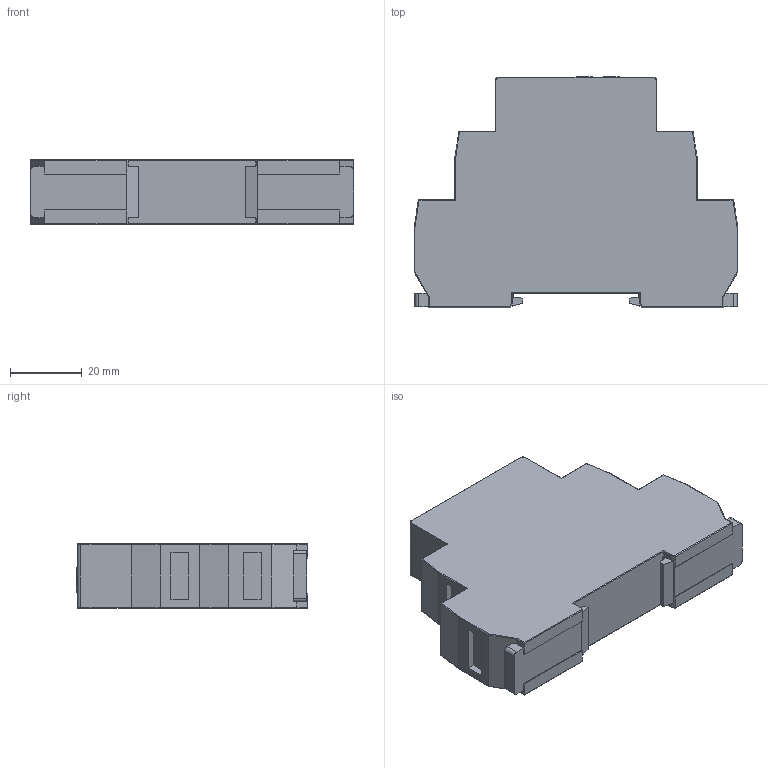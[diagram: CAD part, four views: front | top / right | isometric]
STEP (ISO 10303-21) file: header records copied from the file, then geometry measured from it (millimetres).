
FILE_DESCRIPTION (( 'STEP AP214' ), '1' );
FILE_NAME ('DKC_DRM-TA-2.STEP', '2024-09-02T06:14:50', ( 'ﾏ珞褄' ), ( '' ), 'SwSTEP 2.0', 'SolidWorks 2022', '' );
FILE_SCHEMA (( 'AUTOMOTIVE_DESIGN' ));
Length unit declared in the file: millimetre
Products named in the file (1): DKC_DRM-TA-2
Bounding box: 90 x 64.27 x 17.8 mm (x, y, z)
Volume: 78859.1 mm3; surface area: 15494.9 mm2
Topology: 1 solids, 1 shells, 426 faces, 1129 edges, 726 vertices
Faces by surface type: plane 283, cylinder 109, cone 26, torus 4, sphere 2, bspline 2
Entity records: 17156 total; most frequent: CARTESIAN_POINT 5931, ORIENTED_EDGE 2250, DIRECTION 1539, EDGE_CURVE 1125, VERTEX_POINT 726, VECTOR 633, LINE 633, B_SPLINE_CURVE_WITH_KNOTS 464
